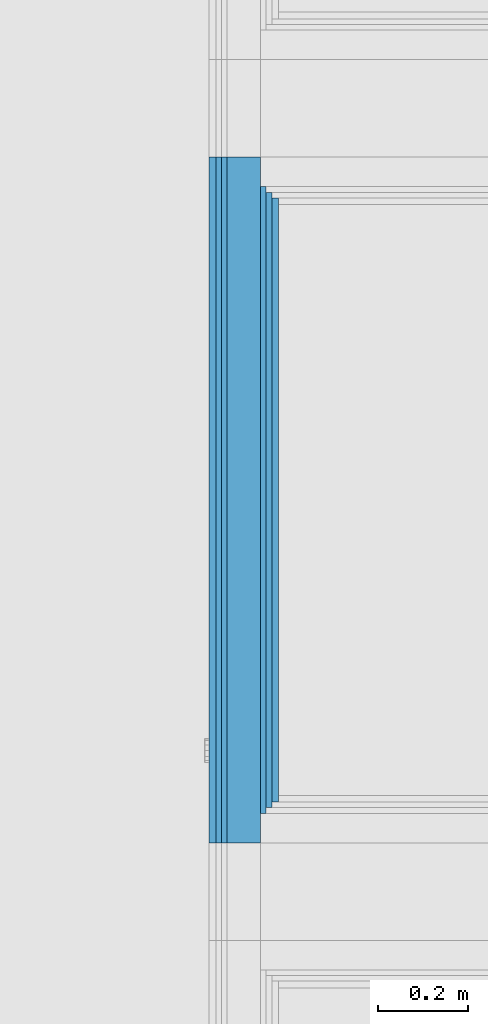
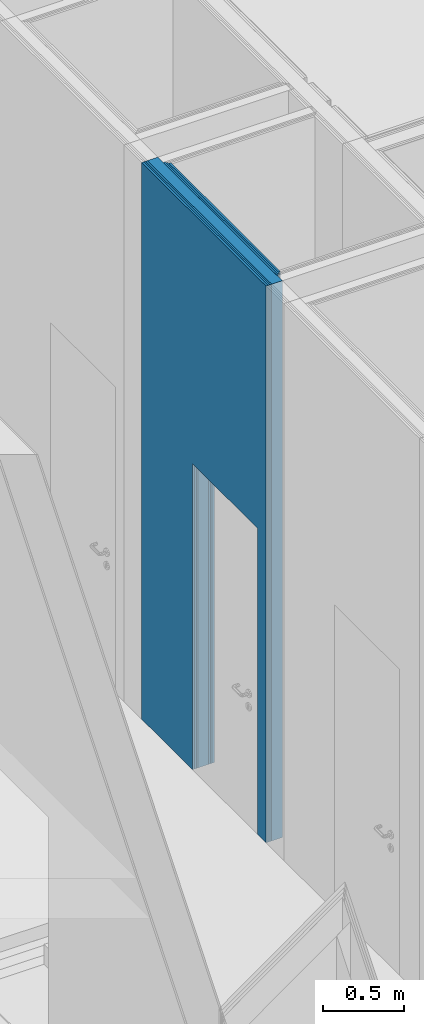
# One storey, part 60 of 260: 7 building element parts, 1 opening, 1 element without a shape of its own.
"""IFC2X3 building model written with IfcOpenShell, lengths in millimetres."""

from ifc_helpers import new_model, entity, si_unit, converted_unit, derived_unit, money_unit, direction, frame, origin_with_axes, place, context, subcontext, project, spatial, faceted_brep, material, type_object, element, aggregate, save


model = new_model("IFC2X3")

# Units and contexts
model_context = context("Model", 3, precision=0.01, world=origin_with_axes(), true_north=direction((0.0, 1.0)))
body_context = subcontext(model_context, "Body", "Model", "MODEL_VIEW")
ifc_project = project(units=[si_unit("LENGTHUNIT", "METRE", prefix="MILLI"), si_unit("AREAUNIT", "SQUARE_METRE"), si_unit("VOLUMEUNIT", "CUBIC_METRE"), converted_unit("PLANEANGLEUNIT", "DEGREE", entity("IfcPlaneAngleMeasure", 0.0174532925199), si_unit("PLANEANGLEUNIT", "RADIAN"), dimensions=[0, 0, 0, 0, 0, 0, 0]), money_unit("EUR"), converted_unit("TIMEUNIT", "Year", entity("IfcTimeMeasure", 31556926.0), si_unit("TIMEUNIT", "SECOND"), dimensions=[0, 0, 1, 0, 0, 0, 0]), si_unit("MASSUNIT", "GRAM", prefix="KILO"), si_unit("THERMODYNAMICTEMPERATUREUNIT", "DEGREE_CELSIUS"), si_unit("LUMINOUSINTENSITYUNIT", "LUMEN"), si_unit("ENERGYUNIT", "JOULE", prefix="MEGA"), derived_unit("THERMALCONDUCTANCEUNIT", [(si_unit("POWERUNIT", "WATT"), 1), (si_unit("LENGTHUNIT", "METRE"), -1), (si_unit("THERMODYNAMICTEMPERATUREUNIT", "KELVIN"), -1)]), derived_unit("SPECIFICHEATCAPACITYUNIT", [(si_unit("ENERGYUNIT", "JOULE"), 1), (si_unit("MASSUNIT", "GRAM", prefix="KILO"), -1), (si_unit("THERMODYNAMICTEMPERATUREUNIT", "KELVIN"), -1)]), derived_unit("MASSDENSITYUNIT", [(si_unit("MASSUNIT", "GRAM", prefix="KILO"), 1), (si_unit("VOLUMEUNIT", "CUBIC_METRE"), -1)])], contexts=[model_context])

# Site, building, storey
site_placement = place(None, origin_with_axes())
site = spatial("IfcSite", under=ifc_project, at=site_placement, Name="Kolde pst 67a", CompositionType="ELEMENT")
building_placement = place(site_placement, origin_with_axes())
building = spatial("IfcBuilding", under=site, at=building_placement, Name="Riigigümnaasium", CompositionType="ELEMENT")
storey_placement = place(building_placement, origin_with_axes())
storey = spatial("IfcBuildingStorey", under=building, at=storey_placement, Name="1. korrus", CompositionType="ELEMENT", Elevation=0.0)

# Wall, opening, building element parts
wall_type = type_object("IfcWallType", Name="SS-MK-7,5/1_plaaditud 155", PredefinedType="NOTDEFINED")
wall_placement = place(storey_placement, frame((66260.8875355, 15243.9999697, 0.0), z_axis=(0.0, 0.0, 1.0), x_axis=(0.0, 1.0, 0.0)))
wall = element("IfcWall", 1, at=wall_placement, inside=storey, type_object=wall_type, Name="Sisesein")
opening_placement = place(wall_placement, frame((505.999999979, 0.0, 0.0), z_axis=(0.0, 0.0, 1.0), x_axis=(1.0, 0.0, 0.0)))
element("IfcOpeningElement", 2, at=opening_placement, cuts=wall, Name="Siseuks", context=body_context, shape_type="Brep", body=[
    faceted_brep([(400.0, -155.0, 2300.0), (400.0, -155.0, 0.0), (400.0, 310.0, 0.0), (400.0, 310.0, 2300.0), (-400.0, -155.0, 2300.0), (-400.0, -155.0, 0.0), (-400.0, 310.0, 0.0), (-400.0, 310.0, 2300.0)], [[[0, 1, 2, 3]], [[0, 4, 5, 1]], [[1, 5, 6, 2]], [[3, 2, 6, 7]], [[4, 0, 3, 7]], [[5, 4, 7, 6]]]),
])
ifc_material_1 = material(Name="_VIIMISTLUSKIHT - viimistlus vastavalt SA osale")
building_element_part_1_placement = place(wall_placement, origin_with_axes())
building_element_part_1 = element("IfcBuildingElementPart", 3, at=building_element_part_1_placement, material=ifc_material_1, Name="_VIIMISTLUSKIHT - viimistlus vastavalt SA osale", context=body_context, shape_type="Brep", body=[
    faceted_brep([(105.999999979, -15.0, 0.0), (105.999999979, -15.0, 2300.0), (905.999999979, -15.0, 2300.0), (905.999999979, -15.0, 0.0), (1532.07687903, -15.0, 0.0), (1532.07687903, -15.0, 4185.0), (0.0, -15.0, 4185.0), (0.0, -15.0, 0.0), (105.999999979, 0.0, 0.0), (105.999999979, 0.0, 2300.0), (905.999999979, 0.0, 2300.0), (905.999999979, 0.0, 0.0), (1532.07687903, 0.0, 0.0), (1532.07687903, 0.0, 4185.0), (0.0, 0.0, 4185.0), (0.0, 0.0, 0.0)], [[[0, 1, 2, 3, 4, 5, 6, 7]], [[1, 0, 8, 9]], [[2, 1, 9, 10]], [[3, 2, 10, 11]], [[3, 11, 12, 4]], [[5, 4, 12, 13]], [[5, 13, 14, 6]], [[14, 15, 7, 6]], [[8, 0, 7, 15]], [[9, 8, 15, 14, 13, 12, 11, 10]]]),
])
ifc_material_2 = material(Name="_PLAATMATERJAL - kipsplaat veekindel")
building_element_part_2_placement = place(wall_placement, origin_with_axes())
building_element_part_2 = element("IfcBuildingElementPart", 4, at=building_element_part_2_placement, material=ifc_material_2, Name="_PLAATMATERJAL - kipsplaat veekindel", context=body_context, shape_type="Brep", body=[
    faceted_brep([(105.999999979, -27.5, 0.0), (105.999999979, -27.5, 2300.0), (905.999999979, -27.5, 2300.0), (905.999999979, -27.5, 0.0), (1532.07687903, -27.5, 0.0), (1532.07687903, -27.5, 4185.0), (0.0, -27.5, 4185.0), (0.0, -27.5, 0.0), (105.999999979, -15.0, 0.0), (105.999999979, -15.0, 2300.0), (905.999999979, -15.0, 2300.0), (905.999999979, -15.0, 0.0), (1532.07687903, -15.0, 0.0), (1532.07687903, -15.0, 4185.0), (0.0, -15.0, 4185.0), (0.0, -15.0, 0.0)], [[[0, 1, 2, 3, 4, 5, 6, 7]], [[1, 0, 8, 9]], [[2, 1, 9, 10]], [[3, 2, 10, 11]], [[3, 11, 12, 4]], [[5, 4, 12, 13]], [[5, 13, 14, 6]], [[14, 15, 7, 6]], [[8, 0, 7, 15]], [[9, 8, 15, 14, 13, 12, 11, 10]]]),
])
building_element_part_3_placement = place(wall_placement, origin_with_axes())
building_element_part_3 = element("IfcBuildingElementPart", 5, at=building_element_part_3_placement, material=ifc_material_2, Name="_PLAATMATERJAL - kipsplaat veekindel", context=body_context, shape_type="Brep", body=[
    faceted_brep([(105.999999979, -40.0, 0.0), (105.999999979, -40.0, 2300.0), (905.999999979, -40.0, 2300.0), (905.999999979, -40.0, 0.0), (1532.07687903, -40.0, 0.0), (1532.07687903, -40.0, 4185.0), (0.0, -40.0, 4185.0), (0.0, -40.0, 0.0), (105.999999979, -27.5, 0.0), (105.999999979, -27.5, 2300.0), (905.999999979, -27.5, 2300.0), (905.999999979, -27.5, 0.0), (1532.07687903, -27.5, 0.0), (1532.07687903, -27.5, 4185.0), (0.0, -27.5, 4185.0), (0.0, -27.5, 0.0)], [[[0, 1, 2, 3, 4, 5, 6, 7]], [[1, 0, 8, 9]], [[2, 1, 9, 10]], [[3, 2, 10, 11]], [[3, 11, 12, 4]], [[5, 4, 12, 13]], [[5, 13, 14, 6]], [[14, 15, 7, 6]], [[8, 0, 7, 15]], [[9, 8, 15, 14, 13, 12, 11, 10]]]),
])
ifc_material_3 = material(Name="_KARKASS - metallkarkass CW 75/50, mineraalvill karkassi vahel")
building_element_part_4_placement = place(wall_placement, origin_with_axes())
building_element_part_4 = element("IfcBuildingElementPart", 6, at=building_element_part_4_placement, material=ifc_material_3, Name="_KARKASS - metallkarkass CW 75/50, mineraalvill karkassi vahel", context=body_context, shape_type="Brep", body=[
    faceted_brep([(105.999999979, -115.0, 0.0), (105.999999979, -115.0, 2300.0), (905.999999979, -115.0, 2300.0), (905.999999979, -115.0, 0.0), (1532.07687903, -115.0, 0.0), (1532.07687903, -115.0, 4185.0), (0.0, -115.0, 4185.0), (0.0, -115.0, 0.0), (105.999999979, -40.0, 0.0), (105.999999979, -40.0, 2300.0), (905.999999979, -40.0, 2300.0), (905.999999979, -40.0, 0.0), (1532.07687903, -40.0, 0.0), (1532.07687903, -40.0, 4185.0), (0.0, -40.0, 4185.0), (0.0, -40.0, 0.0)], [[[0, 1, 2, 3, 4, 5, 6, 7]], [[1, 0, 8, 9]], [[2, 1, 9, 10]], [[3, 2, 10, 11]], [[3, 11, 12, 4]], [[5, 4, 12, 13]], [[5, 13, 14, 6]], [[14, 15, 7, 6]], [[8, 0, 7, 15]], [[9, 8, 15, 14, 13, 12, 11, 10]]]),
])
building_element_part_5_placement = place(wall_placement, origin_with_axes())
building_element_part_5 = element("IfcBuildingElementPart", 7, at=building_element_part_5_placement, material=ifc_material_2, Name="_PLAATMATERJAL - kipsplaat veekindel", context=body_context, shape_type="Brep", body=[
    faceted_brep([(105.999999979, -127.5, 0.0), (105.999999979, -127.5, 2300.0), (905.999999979, -127.5, 2300.0), (905.999999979, -127.5, 0.0), (1466.07688813, -127.5, 0.0), (1466.07688813, -127.5, 4185.0), (66.0000000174, -127.5, 4185.0), (66.0000000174, -127.5, 0.0), (105.999999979, -115.0, 0.0), (105.999999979, -115.0, 2300.0), (905.999999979, -115.0, 2300.0), (905.999999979, -115.0, 0.0), (1466.07687903, -115.0, 0.0), (1466.07687903, -115.0, 4185.0), (66.0, -115.0, 4185.0), (66.0, -115.0, 0.0)], [[[0, 1, 2, 3, 4, 5, 6, 7]], [[1, 0, 8, 9]], [[2, 1, 9, 10]], [[3, 2, 10, 11]], [[3, 11, 12, 4]], [[5, 4, 12, 13]], [[5, 13, 14, 6]], [[14, 15, 7, 6]], [[8, 0, 7, 15]], [[9, 8, 15, 14, 13, 12, 11, 10]]]),
])
building_element_part_6_placement = place(wall_placement, origin_with_axes())
building_element_part_6 = element("IfcBuildingElementPart", 8, at=building_element_part_6_placement, material=ifc_material_2, Name="_PLAATMATERJAL - kipsplaat veekindel", context=body_context, shape_type="Brep", body=[
    faceted_brep([(105.999999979, -140.0, 0.0), (105.999999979, -140.0, 2300.0), (905.999999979, -140.0, 2300.0), (905.999999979, -140.0, 0.0), (1453.57689722, -140.0, 0.0), (1453.57689722, -140.0, 4185.0), (78.5000000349, -140.0, 4185.0), (78.5000000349, -140.0, 0.0), (105.999999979, -127.5, 0.0), (105.999999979, -127.5, 2300.0), (905.999999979, -127.5, 2300.0), (905.999999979, -127.5, 0.0), (1453.57688813, -127.5, 0.0), (1453.57688813, -127.5, 4185.0), (78.5000000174, -127.5, 4185.0), (78.5000000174, -127.5, 0.0)], [[[0, 1, 2, 3, 4, 5, 6, 7]], [[1, 0, 8, 9]], [[2, 1, 9, 10]], [[3, 2, 10, 11]], [[3, 11, 12, 4]], [[5, 4, 12, 13]], [[5, 13, 14, 6]], [[14, 15, 7, 6]], [[8, 0, 7, 15]], [[9, 8, 15, 14, 13, 12, 11, 10]]]),
])
building_element_part_7_placement = place(wall_placement, origin_with_axes())
building_element_part_7 = element("IfcBuildingElementPart", 9, at=building_element_part_7_placement, material=ifc_material_1, Name="_VIIMISTLUSKIHT - viimistlus vastavalt SA osale", context=body_context, shape_type="Brep", body=[
    faceted_brep([(105.999999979, -155.0, 0.0), (105.999999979, -155.0, 2300.0), (905.999999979, -155.0, 2300.0), (905.999999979, -155.0, 0.0), (1441.07690813, -155.0, 0.0), (1441.07690813, -155.0, 4185.0), (91.0000000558, -155.0, 4185.0), (91.0000000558, -155.0, 0.0), (105.999999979, -140.0, 0.0), (105.999999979, -140.0, 2300.0), (905.999999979, -140.0, 2300.0), (905.999999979, -140.0, 0.0), (1441.07689722, -140.0, 0.0), (1441.07689722, -140.0, 4185.0), (91.0000000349, -140.0, 4185.0), (91.0000000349, -140.0, 0.0)], [[[0, 1, 2, 3, 4, 5, 6, 7]], [[1, 0, 8, 9]], [[2, 1, 9, 10]], [[3, 2, 10, 11]], [[3, 11, 12, 4]], [[5, 4, 12, 13]], [[5, 13, 14, 6]], [[14, 15, 7, 6]], [[8, 0, 7, 15]], [[9, 8, 15, 14, 13, 12, 11, 10]]]),
])
aggregate(wall, [building_element_part_1, building_element_part_2, building_element_part_3, building_element_part_4, building_element_part_5, building_element_part_6, building_element_part_7])

save(model, "model.ifc")
